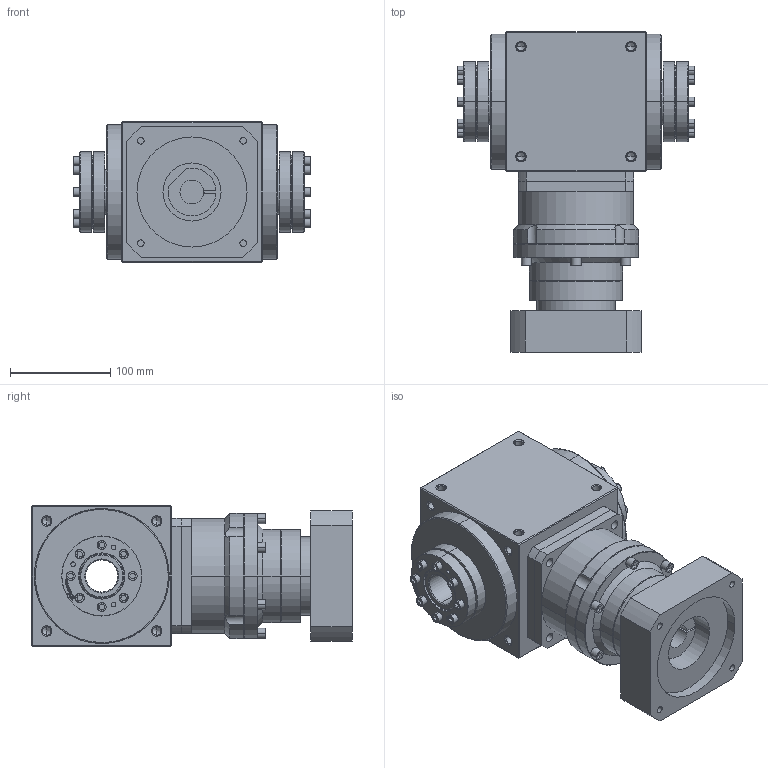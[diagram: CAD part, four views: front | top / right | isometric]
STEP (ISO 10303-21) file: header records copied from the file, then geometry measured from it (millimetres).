
FILE_DESCRIPTION (( 'STEP AP203' ), '1' );
FILE_NAME ('AT140-FC-L2 24-110-145-M8.STEP', '2024-12-25T01:34:51', ( '' ), ( '' ), 'SwSTEP 2.0', 'SolidWorks 2021', '' );
FILE_SCHEMA (( 'CONFIG_CONTROL_DESIGN' ));
Length unit declared in the file: millimetre
Products named in the file (16): 83_44x80-7; AT140-FC-L1-2KW; 83_44x80-9; 83_44x80-1; 83_44x80-8; AT140-FC-L2 24-110-145-M8; 83_44x80-3; 83_44x80-2; 83_44x80; 83_44x80-5; 83_44x80-4; 83_44x80-11; VRB-115-L2-S2-P1 24-110-145-M8; 83_44x80-6; 83_44x80-10
Assembly tree (16 placements, depth 3):
  AT140-FC-L2 24-110-145-M8
    AT140-FC-L1-2KW
    83_44x80  x2
      83_44x80
      83_44x80-1
      83_44x80-2
      83_44x80-3
      83_44x80-4
      83_44x80-5
      83_44x80-6
      83_44x80-7
      83_44x80-8
      83_44x80-9
      83_44x80-10
      83_44x80-11
    VRB-115-L2-S2-P1 24-110-145-M8
Bounding box: 237.2 x 320.5 x 140 mm (x, y, z)
Volume: 5077416 mm3; surface area: 383441.2 mm2
Topology: 26 solids, 26 shells, 1350 faces, 3208 edges, 1939 vertices
Faces by surface type: cylinder 577, plane 383, cone 282, torus 64, bspline 44
Entity records: 27817 total; most frequent: CARTESIAN_POINT 6020, DIRECTION 4353, ORIENTED_EDGE 4140, EDGE_CURVE 2070, AXIS2_PLACEMENT_3D 1672, VERTEX_POINT 1269, VECTOR 1009, LINE 1009
